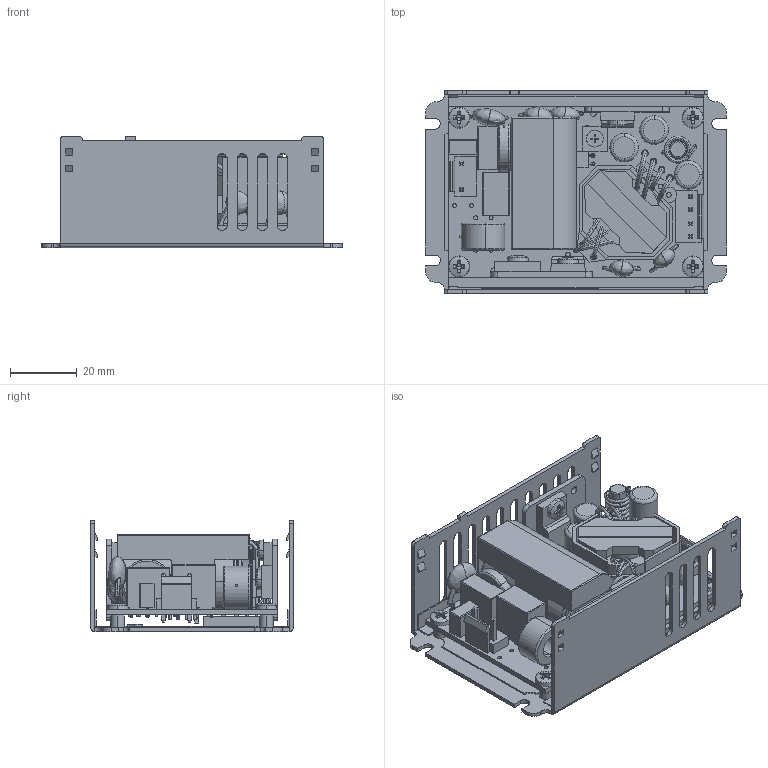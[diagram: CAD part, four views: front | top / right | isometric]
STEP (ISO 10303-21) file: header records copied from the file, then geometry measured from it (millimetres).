
FILE_DESCRIPTION (( 'STEP AP214' ), '1' );
FILE_NAME ('TUD40-V00.STEP', '2017-03-16T06:58:20', ( 'user' ), ( '' ), 'SwSTEP 2.0', 'SolidWorks 2016', '' );
FILE_SCHEMA (( 'AUTOMOTIVE_DESIGN' ));
Length unit declared in the file: millimetre
Products named in the file (1): TUD40-V00
Bounding box: 89.74 x 60.45 x 33.27 mm (x, y, z)
Volume: 54525.6 mm3; surface area: 74272.6 mm2
Topology: 52 solids, 52 shells, 1845 faces, 4595 edges, 2925 vertices
Faces by surface type: plane 983, cylinder 583, torus 110, bspline 82, cone 60, sphere 27
Entity records: 86546 total; most frequent: CARTESIAN_POINT 20919, DIRECTION 9458, ORIENTED_EDGE 9088, EDGE_CURVE 4544, AXIS2_PLACEMENT_3D 3385, VERTEX_POINT 2925, LINE 2688, VECTOR 2688
